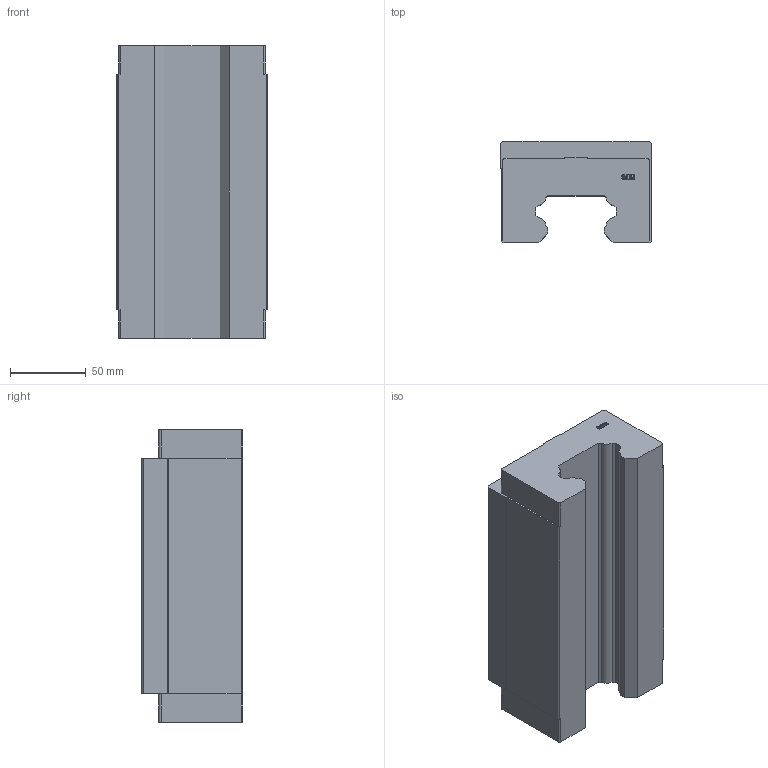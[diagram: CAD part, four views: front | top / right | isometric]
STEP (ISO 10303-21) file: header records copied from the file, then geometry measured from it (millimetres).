
FILE_DESCRIPTION (( 'STEP AP203' ), '1' );
FILE_NAME ('SMH55BL.stp', '2019-09-25T05:08:09', ( 'pgos' ), ( '' ), 'SwSTEP 2.0', 'SolidWorks 2014', '' );
FILE_SCHEMA (( 'CONFIG_CONTROL_DESIGN' ));
Length unit declared in the file: millimetre
Products named in the file (1): SMH55BL
Bounding box: 100 x 67 x 193.8 mm (x, y, z)
Volume: 965201.5 mm3; surface area: 91162.2 mm2
Topology: 1 solids, 1 shells, 227 faces, 656 edges, 432 vertices
Faces by surface type: plane 144, bspline 59, cylinder 16, cone 8
Entity records: 9769 total; most frequent: CARTESIAN_POINT 4135, ORIENTED_EDGE 1296, DIRECTION 904, EDGE_CURVE 648, LINE 494, VECTOR 494, VERTEX_POINT 432, EDGE_LOOP 236
